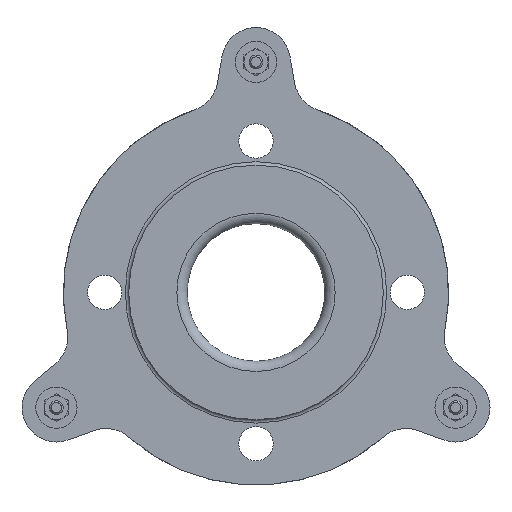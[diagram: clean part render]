
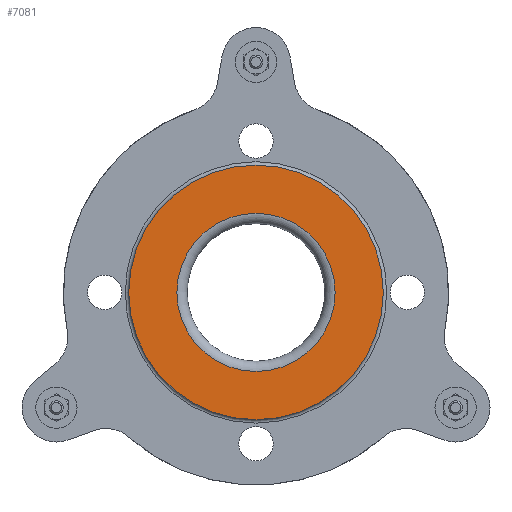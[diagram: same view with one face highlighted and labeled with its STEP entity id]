
A CAD part, left-side view. The second image highlights one B-rep face of the part: STEP entity #7081.
In plain terms, the highlighted planar face has unit normal (-1, 0, 0).
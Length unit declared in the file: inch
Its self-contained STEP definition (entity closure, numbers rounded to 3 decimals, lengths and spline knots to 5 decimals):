
#860=PLANE('',#7908);
#1547=FACE_BOUND('',#2615,.T.);
#1963=FACE_OUTER_BOUND('',#2614,.T.);
#2614=EDGE_LOOP('',(#6123));
#2615=EDGE_LOOP('',(#6124));
#3093=CIRCLE('',#7907,2.3125);
#3094=CIRCLE('',#7909,1.4375);
#3650=VERTEX_POINT('',#12382);
#3651=VERTEX_POINT('',#12385);
#4492=EDGE_CURVE('',#3650,#3650,#3093,.T.);
#4493=EDGE_CURVE('',#3651,#3651,#3094,.T.);
#6123=ORIENTED_EDGE('',*,*,#4492,.T.);
#6124=ORIENTED_EDGE('',*,*,#4493,.F.);
#7081=ADVANCED_FACE('',(#1963,#1547),#860,.T.);
#7907=AXIS2_PLACEMENT_3D('',#12383,#9648,#9649);
#7908=AXIS2_PLACEMENT_3D('',#12384,#9650,#9651);
#7909=AXIS2_PLACEMENT_3D('',#12386,#9652,#9653);
#9648=DIRECTION('center_axis',(-1.,0.,0.));
#9649=DIRECTION('ref_axis',(0.,-1.,0.));
#9650=DIRECTION('center_axis',(-1.,0.,0.));
#9651=DIRECTION('ref_axis',(0.,-1.,0.));
#9652=DIRECTION('center_axis',(-1.,0.,0.));
#9653=DIRECTION('ref_axis',(0.,-1.,0.));
#12382=CARTESIAN_POINT('',(-1.1875,0.,2.3125));
#12383=CARTESIAN_POINT('Origin',(-1.1875,0.,0.));
#12384=CARTESIAN_POINT('Origin',(-1.1875,0.,1.4375));
#12385=CARTESIAN_POINT('',(-1.1875,0.,1.4375));
#12386=CARTESIAN_POINT('Origin',(-1.1875,0.,0.));
